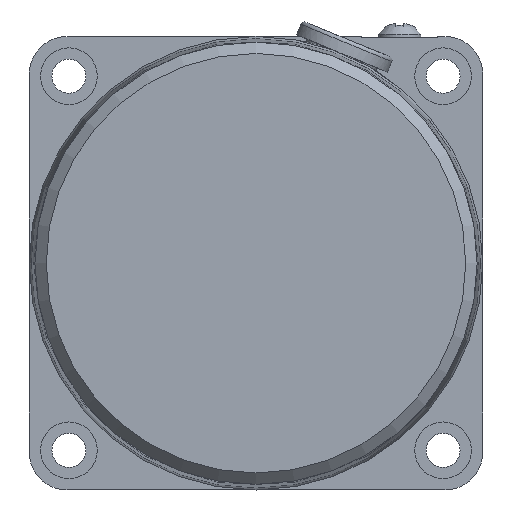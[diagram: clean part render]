
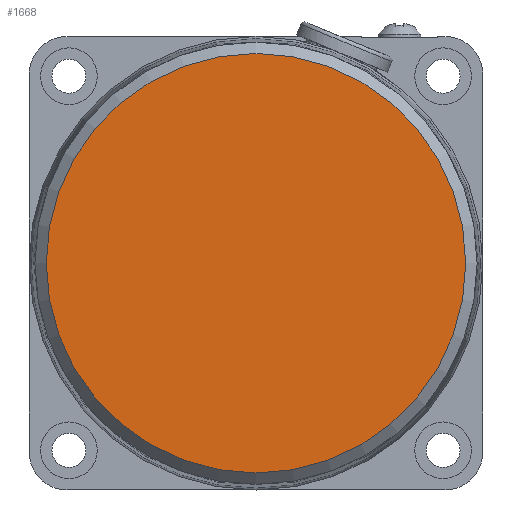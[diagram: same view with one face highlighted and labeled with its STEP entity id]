
A CAD part, left-side view. The second image highlights one B-rep face of the part: STEP entity #1668.
In plain terms, the highlighted planar face has unit normal (-1, 0, 0).
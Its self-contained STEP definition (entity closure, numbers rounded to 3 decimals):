
#98=CIRCLE('',#1788,27.75);
#201=FACE_OUTER_BOUND('',#303,.T.);
#303=EDGE_LOOP('',(#1136));
#705=VERTEX_POINT('',#2555);
#877=EDGE_CURVE('',#705,#705,#98,.T.);
#1136=ORIENTED_EDGE('',*,*,#877,.F.);
#1503=PLANE('',#1789);
#1668=ADVANCED_FACE('',(#201),#1503,.T.);
#1788=AXIS2_PLACEMENT_3D('',#2556,#2025,#2026);
#1789=AXIS2_PLACEMENT_3D('',#2557,#2027,#2028);
#2025=DIRECTION('center_axis',(1.,0.,0.));
#2026=DIRECTION('ref_axis',(0.,1.,0.));
#2027=DIRECTION('center_axis',(-1.,0.,0.));
#2028=DIRECTION('ref_axis',(0.,0.,1.));
#2555=CARTESIAN_POINT('',(0.,27.75,0.));
#2556=CARTESIAN_POINT('Origin',(0.,0.,0.));
#2557=CARTESIAN_POINT('Origin',(0.,13.875,0.));
